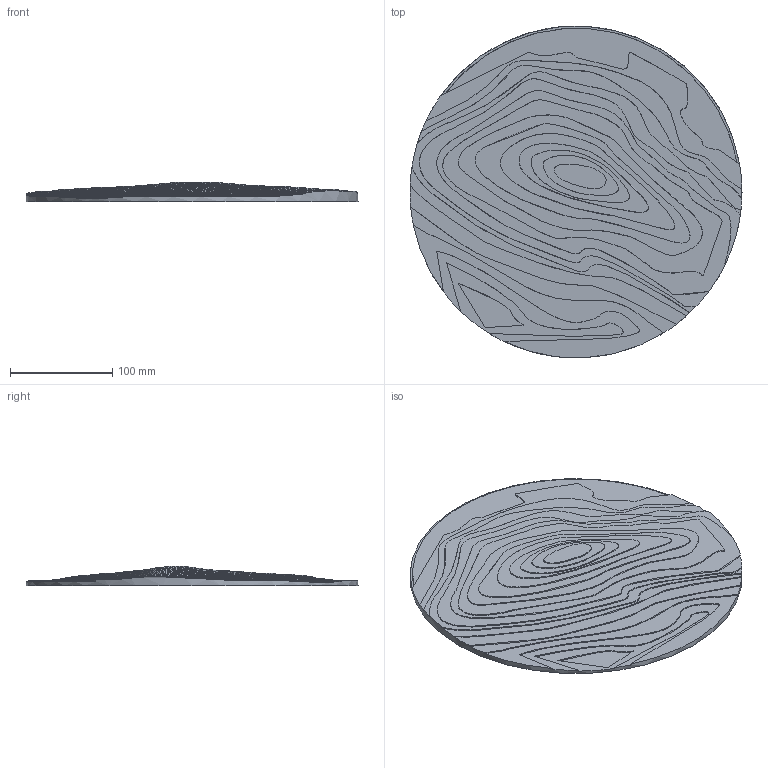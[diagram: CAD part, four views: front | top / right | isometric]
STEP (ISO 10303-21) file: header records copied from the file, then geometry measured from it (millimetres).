
FILE_DESCRIPTION(/* description */ (''),/* implementation_level */ '2;1');
FILE_NAME(/* name */ '/Users/Alberto/Desktop/Topo-gorbea-3d v1.step',/* time_stamp */ '2019-03-15T15:59:54+01:00',/* author */ ('alberto_aml_92@hotmail.com'),/* organization */ (''),/* preprocessor_version */ 'ST-DEVELOPER v17.2',/* originating_system */ 'Autodesk Translation Framework v7.6.0.251',/* authorisation */ '');
FILE_SCHEMA (('AUTOMOTIVE_DESIGN { 1 0 10303 214 3 1 1 }'));
Length unit declared in the file: millimetre
Products named in the file (1): Topo-gorbea-3d
Bounding box: 325 x 325 x 19 mm (x, y, z)
Volume: 759526.1 mm3; surface area: 181082 mm2
Topology: 1 solids, 1 shells, 109 faces, 302 edges, 204 vertices
Faces by surface type: bspline 78, plane 30, cylinder 1
Full cylindrical faces by diameter (mm): 325 x1
Entity records: 4777 total; most frequent: CARTESIAN_POINT 2512, ORIENTED_EDGE 604, EDGE_CURVE 302, DIRECTION 210, VERTEX_POINT 204, B_SPLINE_CURVE_WITH_KNOTS 182, EDGE_LOOP 118, FACE_OUTER_BOUND 109
